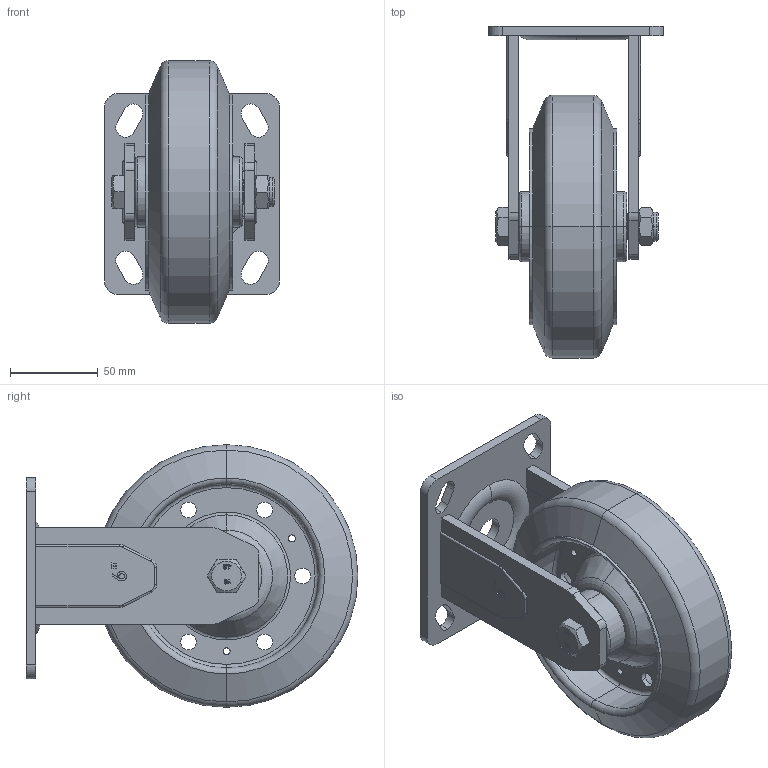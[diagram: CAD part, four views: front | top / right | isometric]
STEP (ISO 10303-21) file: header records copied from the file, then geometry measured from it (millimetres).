
FILE_DESCRIPTION (( 'STEP AP203' ), '1' );
FILE_NAME ('重型6寸定向.STEP', '2024-04-12T09:43:05', ( '微软用户' ), ( '微软中国' ), 'SwSTEP 2.0', 'SolidWorks 2008', '' );
FILE_SCHEMA (( 'CONFIG_CONTROL_DESIGN' ));
Length unit declared in the file: millimetre
Products named in the file (6): M7 重型固定底板_默认; 6寸橡胶轮_默认; 12｡ﾁ85ﾂﾝｸﾋ_ﾄｬﾈﾏ; M12螺母_默认; M7  6寸固定侧臂_默认; 笭倰6渡隅砃
Assembly tree (5 placements, depth 2):
  笭倰6渡隅砃
    12｡ﾁ85ﾂﾝｸﾋ_ﾄｬﾈﾏ
    M12螺母_默认
    6寸橡胶轮_默认
    M7 重型固定底板_默认
    M7  6寸固定侧臂_默认
Bounding box: 100 x 189.5 x 150 mm (x, y, z)
Volume: 635623.1 mm3; surface area: 136068.8 mm2
Topology: 6 solids, 6 shells, 371 faces, 925 edges, 592 vertices
Faces by surface type: plane 153, cylinder 106, bspline 50, torus 44, cone 18
Entity records: 16491 total; most frequent: CARTESIAN_POINT 7148, ORIENTED_EDGE 1850, DIRECTION 1728, EDGE_CURVE 925, AXIS2_PLACEMENT_3D 617, VERTEX_POINT 592, LINE 494, VECTOR 494
